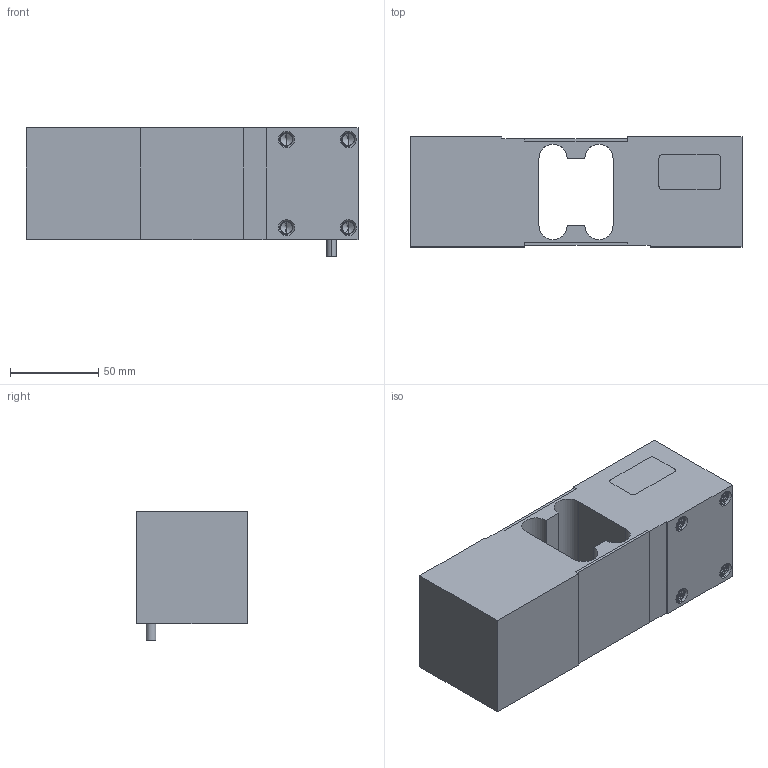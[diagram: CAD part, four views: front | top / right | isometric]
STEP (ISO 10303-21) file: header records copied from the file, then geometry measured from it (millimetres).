
FILE_DESCRIPTION (( 'STEP AP214' ), '1' );
FILE_NAME ('Soemer-1260.STEP', '2023-10-04T14:08:40', ( '' ), ( '' ), 'SwSTEP 2.0', 'SolidWorks 2019', '' );
FILE_SCHEMA (( 'AUTOMOTIVE_DESIGN' ));
Length unit declared in the file: millimetre
Products named in the file (2): Soemer-1260
Bounding box: 188 x 62.3 x 72.8 mm (x, y, z)
Volume: 593266.8 mm3; surface area: 87990.1 mm2
Topology: 5 solids, 5 shells, 445 faces, 1266 edges, 828 vertices
Faces by surface type: cylinder 302, plane 75, cone 44, bspline 24
Entity records: 58542 total; most frequent: CARTESIAN_POINT 45252, ORIENTED_EDGE 2500, DIRECTION 1572, EDGE_CURVE 1250, VERTEX_POINT 828, AXIS2_PLACEMENT_3D 537, LINE 498, VECTOR 498
